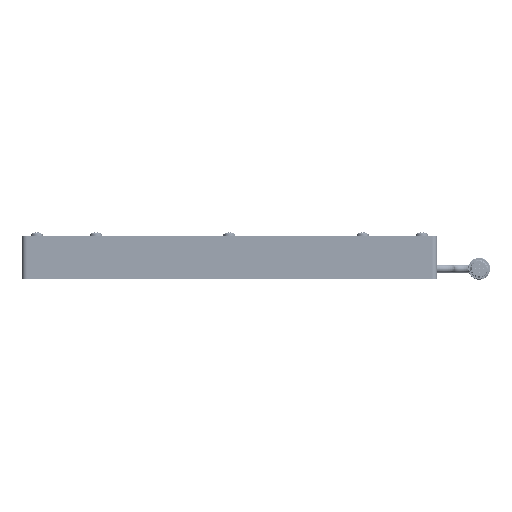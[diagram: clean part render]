
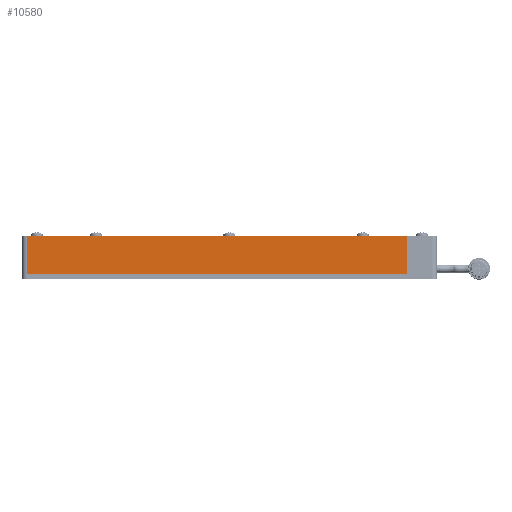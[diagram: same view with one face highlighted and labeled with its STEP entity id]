
A CAD part, left-side view. The second image highlights one B-rep face of the part: STEP entity #10580.
In plain terms, the highlighted planar face has unit normal (-1, 0, 0) as drawn and (0, 0, -1) by its records, which use the part's own axes.
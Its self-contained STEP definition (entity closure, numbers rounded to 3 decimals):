
#512 = VECTOR ( 'NONE', #12125, 1000. ) ;
#530 = DIRECTION ( 'NONE',  ( 0., 0., 1. ) ) ;
#589 = CARTESIAN_POINT ( 'NONE',  ( 136.825, -12.7, -10. ) ) ;
#912 = DIRECTION ( 'NONE',  ( -1., 0., 0. ) ) ;
#1302 = VECTOR ( 'NONE', #11361, 1000. ) ;
#2079 = ORIENTED_EDGE ( 'NONE', *, *, #4655, .T. ) ;
#2472 = CARTESIAN_POINT ( 'NONE',  ( -140., 12.7, -10. ) ) ;
#2829 = FACE_OUTER_BOUND ( 'NONE', #9773, .T. ) ;
#3967 = CARTESIAN_POINT ( 'NONE',  ( 136.825, 12.7, -10. ) ) ;
#4006 = EDGE_CURVE ( 'NONE', #12973, #5924, #6599, .T. ) ;
#4400 = VECTOR ( 'NONE', #5738, 1000. ) ;
#4655 = EDGE_CURVE ( 'NONE', #11022, #5924, #9142, .T. ) ;
#5738 = DIRECTION ( 'NONE',  ( 0., -1., 0. ) ) ;
#5924 = VERTEX_POINT ( 'NONE', #9502 ) ;
#6276 = EDGE_CURVE ( 'NONE', #6430, #11022, #9323, .T. ) ;
#6430 = VERTEX_POINT ( 'NONE', #3967 ) ;
#6599 = LINE ( 'NONE', #11440, #1302 ) ;
#8439 = ORIENTED_EDGE ( 'NONE', *, *, #4006, .F. ) ;
#8597 = CARTESIAN_POINT ( 'NONE',  ( -140., 12.7, -10. ) ) ;
#9071 = ORIENTED_EDGE ( 'NONE', *, *, #6276, .T. ) ;
#9142 = LINE ( 'NONE', #13900, #13251 ) ;
#9171 = CARTESIAN_POINT ( 'NONE',  ( 136.825, 12.7, -10. ) ) ;
#9200 = AXIS2_PLACEMENT_3D ( 'NONE', #8597, #530, #13340 ) ;
#9323 = LINE ( 'NONE', #9171, #4400 ) ;
#9502 = CARTESIAN_POINT ( 'NONE',  ( -120., -12.7, -10. ) ) ;
#9773 = EDGE_LOOP ( 'NONE', ( #11488, #9071, #2079, #8439 ) ) ;
#10580 = ADVANCED_FACE ( 'NONE', ( #2829 ), #13577, .F. ) ;
#11022 = VERTEX_POINT ( 'NONE', #589 ) ;
#11361 = DIRECTION ( 'NONE',  ( 0., -1., 0. ) ) ;
#11440 = CARTESIAN_POINT ( 'NONE',  ( -120., 396.775, -10. ) ) ;
#11488 = ORIENTED_EDGE ( 'NONE', *, *, #11961, .F. ) ;
#11961 = EDGE_CURVE ( 'NONE', #6430, #12973, #14394, .T. ) ;
#12125 = DIRECTION ( 'NONE',  ( -1., 0., 0. ) ) ;
#12973 = VERTEX_POINT ( 'NONE', #13123 ) ;
#13123 = CARTESIAN_POINT ( 'NONE',  ( -120., 12.7, -10. ) ) ;
#13251 = VECTOR ( 'NONE', #912, 1000. ) ;
#13340 = DIRECTION ( 'NONE',  ( 1., 0., 0. ) ) ;
#13577 = PLANE ( 'NONE',  #9200 ) ;
#13900 = CARTESIAN_POINT ( 'NONE',  ( -140., -12.7, -10. ) ) ;
#14394 = LINE ( 'NONE', #2472, #512 ) ;
